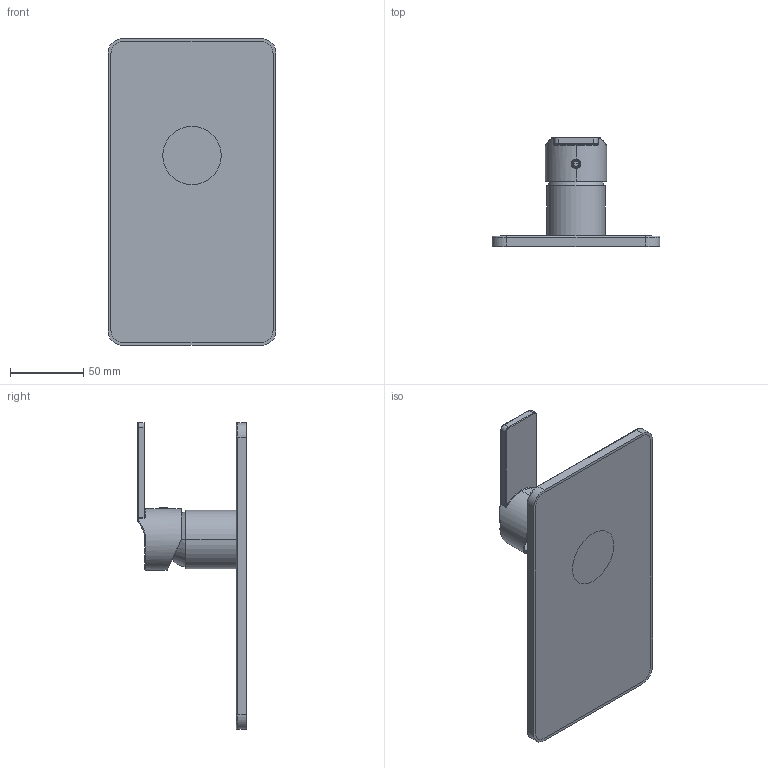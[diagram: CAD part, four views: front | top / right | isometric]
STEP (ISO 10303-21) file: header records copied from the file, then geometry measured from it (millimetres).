
FILE_DESCRIPTION((''),'2;1');
FILE_NAME('47521A_SW0001','2024-12-13T11:16:43',('carloff'),(''),'CREO PARAMETRIC BY PTC INC, 2022014','CREO PARAMETRIC BY PTC INC, 2022014','');
FILE_SCHEMA(('CONFIG_CONTROL_DESIGN'));
Length unit declared in the file: millimetre
Products named in the file (1): 47521A_SW0001
Bounding box: 115 x 74.6 x 210 mm (x, y, z)
Volume: 154138.7 mm3; surface area: 119128 mm2
Topology: 2 solids, 3 shells, 280 faces, 730 edges, 458 vertices
Faces by surface type: plane 120, cylinder 86, torus 30, bspline 27, cone 15, sphere 2
Entity records: 15086 total; most frequent: CARTESIAN_POINT 8394, ORIENTED_EDGE 1452, DIRECTION 1306, EDGE_CURVE 726, AXIS2_PLACEMENT_3D 463, VERTEX_POINT 458, VECTOR 380, LINE 380
